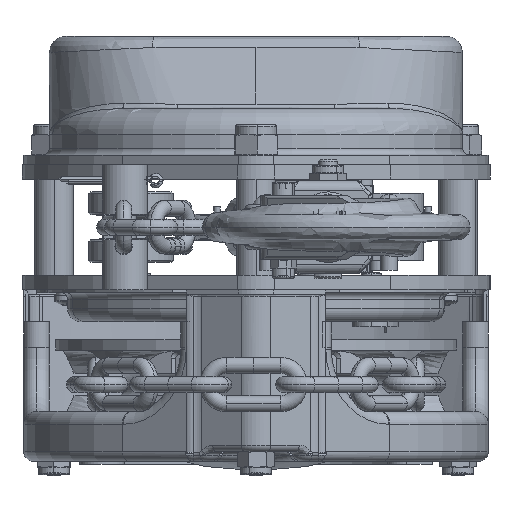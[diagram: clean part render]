
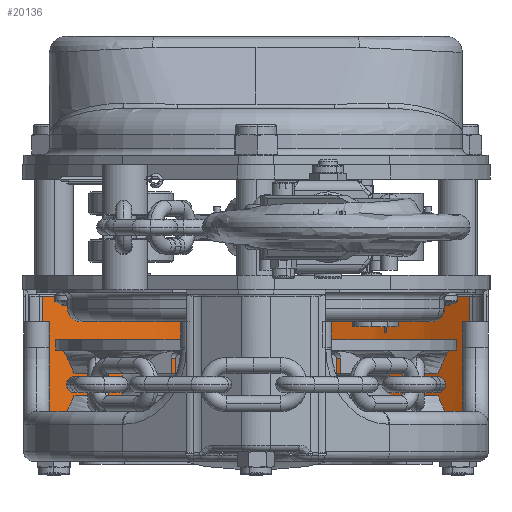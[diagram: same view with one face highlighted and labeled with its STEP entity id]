
A CAD part, front view. The second image highlights one B-rep face of the part: STEP entity #20136.
In plain terms, the highlighted cylindrical face has radius 116.5 mm (diameter 233 mm), a partial arc.
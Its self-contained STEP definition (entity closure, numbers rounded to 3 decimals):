
#227 = VERTEX_POINT ( 'NONE', #128330 ) ;
#793 = CARTESIAN_POINT ( 'NONE',  ( 45.596, 62.034, -81.5 ) ) ;
#1045 = CARTESIAN_POINT ( 'NONE',  ( -34.921, 65.971, -83.5 ) ) ;
#3071 = CARTESIAN_POINT ( 'NONE',  ( -36.113, 65.591, -83.698 ) ) ;
#5030 = CARTESIAN_POINT ( 'NONE',  ( -37.317, 65.19, -83.72 ) ) ;
#5415 = CARTESIAN_POINT ( 'NONE',  ( 44.865, 62.345, -81.5 ) ) ;
#5677 = CARTESIAN_POINT ( 'NONE',  ( -38.205, 64.886, -83.644 ) ) ;
#5681 = CARTESIAN_POINT ( 'NONE',  ( -11.841, 70.876, -36.5 ) ) ;
#6355 = CARTESIAN_POINT ( 'NONE',  ( 29.327, 67.731, -36.5 ) ) ;
#12403 = DIRECTION ( 'NONE',  ( 0., 0., -1. ) ) ;
#13735 = CARTESIAN_POINT ( 'NONE',  ( -34.921, 65.971, -83.5 ) ) ;
#15043 = CARTESIAN_POINT ( 'NONE',  ( -44.17, 62.637, -82.118 ) ) ;
#17555 = ORIENTED_EDGE ( 'NONE', *, *, #19787, .T. ) ;
#19053 = AXIS2_PLACEMENT_3D ( 'NONE', #63013, #124613, #104780 ) ;
#19496 = AXIS2_PLACEMENT_3D ( 'NONE', #73085, #23400, #53861 ) ;
#19787 = EDGE_CURVE ( 'NONE', #70064, #123569, #38525, .T. ) ;
#20136 = ADVANCED_FACE ( 'NONE', ( #81293 ), #101172, .F. ) ;
#21043 = DIRECTION ( 'NONE',  ( -1., 0., 0. ) ) ;
#22102 = ORIENTED_EDGE ( 'NONE', *, *, #100329, .T. ) ;
#23400 = DIRECTION ( 'NONE',  ( 0., 0., -1. ) ) ;
#23629 = CARTESIAN_POINT ( 'NONE',  ( -37.911, 64.987, -83.679 ) ) ;
#23943 = VECTOR ( 'NONE', #111805, 1000. ) ;
#24046 = CARTESIAN_POINT ( 'NONE',  ( 0., -45.172, -81.5 ) ) ;
#24922 = CARTESIAN_POINT ( 'NONE',  ( -23.544, 69.078, -36.5 ) ) ;
#25316 = CARTESIAN_POINT ( 'NONE',  ( 44.142, 62.644, -81.577 ) ) ;
#26217 = CARTESIAN_POINT ( 'NONE',  ( 66.723, 50.328, -81.5 ) ) ;
#26224 = CARTESIAN_POINT ( 'NONE',  ( 23.544, 69.078, -36.5 ) ) ;
#26600 = CARTESIAN_POINT ( 'NONE',  ( 39.841, 64.306, -82.571 ) ) ;
#27088 = CARTESIAN_POINT ( 'NONE',  ( -66.723, 50.328, -81.5 ) ) ;
#27937 = CARTESIAN_POINT ( 'NONE',  ( 40.555, 64.044, -82.356 ) ) ;
#28674 = CARTESIAN_POINT ( 'NONE',  ( -66.723, 50.328, -36.5 ) ) ;
#29859 = B_SPLINE_CURVE_WITH_KNOTS ( 'NONE', 3,
 ( #55772, #96144, #125964, #26600, #27937, #35258, #75664, #25316, #5415, #45806 ),
 .UNSPECIFIED., .F., .F.,
 ( 4, 2, 2, 2, 4 ),
 ( 0., 0.002, 0.005, 0.007, 0.009 ),
 .UNSPECIFIED. ) ;
#30283 = ORIENTED_EDGE ( 'NONE', *, *, #108242, .T. ) ;
#32245 = VERTEX_POINT ( 'NONE', #793 ) ;
#35258 = CARTESIAN_POINT ( 'NONE',  ( 41.986, 63.502, -81.978 ) ) ;
#36856 = CARTESIAN_POINT ( 'NONE',  ( -61.869, 53.719, -36.5 ) ) ;
#38525 = CIRCLE ( 'NONE', #19496, 116.5 ) ;
#41469 = EDGE_CURVE ( 'NONE', #227, #44192, #128561, .T. ) ;
#43210 = DIRECTION ( 'NONE',  ( 0., 0., -1. ) ) ;
#44135 = CARTESIAN_POINT ( 'NONE',  ( -43.048, 63.09, -82.432 ) ) ;
#44192 = VERTEX_POINT ( 'NONE', #26217 ) ;
#44294 = EDGE_CURVE ( 'NONE', #85347, #70064, #128898, .T. ) ;
#45806 = CARTESIAN_POINT ( 'NONE',  ( 45.596, 62.034, -81.5 ) ) ;
#46069 = CARTESIAN_POINT ( 'NONE',  ( -46.134, 61.968, -36.5 ) ) ;
#46748 = CARTESIAN_POINT ( 'NONE',  ( 40.622, 64.177, -36.5 ) ) ;
#47092 = CARTESIAN_POINT ( 'NONE',  ( 66.723, 50.328, -36. ) ) ;
#47825 = VERTEX_POINT ( 'NONE', #27088 ) ;
#50323 = EDGE_CURVE ( 'NONE', #123569, #32245, #29859, .T. ) ;
#53861 = DIRECTION ( 'NONE',  ( -1., 0., 0. ) ) ;
#54746 = CARTESIAN_POINT ( 'NONE',  ( -40.792, 63.955, -83.079 ) ) ;
#54967 = CIRCLE ( 'NONE', #19053, 116.5 ) ;
#55149 = DIRECTION ( 'NONE',  ( -1., 0., 0. ) ) ;
#55375 = CARTESIAN_POINT ( 'NONE',  ( -35.516, 65.784, -83.617 ) ) ;
#55772 = CARTESIAN_POINT ( 'NONE',  ( 36.993, 65.298, -83.5 ) ) ;
#56024 = CARTESIAN_POINT ( 'NONE',  ( 11.841, 70.876, -36.5 ) ) ;
#56454 = CARTESIAN_POINT ( 'NONE',  ( -48.699, 60.661, -81.5 ) ) ;
#56658 = CARTESIAN_POINT ( 'NONE',  ( 5.92, 71.328, -36.5 ) ) ;
#63013 = CARTESIAN_POINT ( 'NONE',  ( 0., -45.172, -81.5 ) ) ;
#63744 = VECTOR ( 'NONE', #100067, 1000. ) ;
#66245 = ORIENTED_EDGE ( 'NONE', *, *, #44294, .T. ) ;
#70064 = VERTEX_POINT ( 'NONE', #1045 ) ;
#71416 = LINE ( 'NONE', #103135, #23943 ) ;
#73085 = CARTESIAN_POINT ( 'NONE',  ( 0., -45.172, -83.5 ) ) ;
#74649 = CARTESIAN_POINT ( 'NONE',  ( -39.08, 64.58, -83.508 ) ) ;
#75288 = CARTESIAN_POINT ( 'NONE',  ( 61.869, 53.719, -36.5 ) ) ;
#75664 = CARTESIAN_POINT ( 'NONE',  ( 42.702, 63.222, -81.815 ) ) ;
#80627 = CARTESIAN_POINT ( 'NONE',  ( 0., -45.172, -36. ) ) ;
#81293 = FACE_OUTER_BOUND ( 'NONE', #115355, .T. ) ;
#82748 = ORIENTED_EDGE ( 'NONE', *, *, #104490, .T. ) ;
#85347 = VERTEX_POINT ( 'NONE', #56454 ) ;
#94476 = CARTESIAN_POINT ( 'NONE',  ( -47.554, 61.188, -81.5 ) ) ;
#96144 = CARTESIAN_POINT ( 'NONE',  ( 37.707, 65.06, -83.262 ) ) ;
#96403 = CARTESIAN_POINT ( 'NONE',  ( -46.424, 61.686, -81.654 ) ) ;
#96408 = CARTESIAN_POINT ( 'NONE',  ( -5.92, 71.328, -36.5 ) ) ;
#99582 = CARTESIAN_POINT ( 'NONE',  ( -66.723, 50.328, -36.5 ) ) ;
#100067 = DIRECTION ( 'NONE',  ( 0., 0., -1. ) ) ;
#100077 = EDGE_CURVE ( 'NONE', #227, #108794, #119195, .T. ) ;
#100329 = EDGE_CURVE ( 'NONE', #32245, #44192, #54967, .T. ) ;
#101172 = CYLINDRICAL_SURFACE ( 'NONE', #123169, 116.5 ) ;
#101392 = CIRCLE ( 'NONE', #124625, 116.5 ) ;
#103135 = CARTESIAN_POINT ( 'NONE',  ( -66.723, 50.328, -36. ) ) ;
#104437 = CARTESIAN_POINT ( 'NONE',  ( -37.015, 65.292, -83.726 ) ) ;
#104490 = EDGE_CURVE ( 'NONE', #47825, #85347, #101392, .T. ) ;
#104780 = DIRECTION ( 'NONE',  ( -1., 0., 0. ) ) ;
#105089 = CARTESIAN_POINT ( 'NONE',  ( -41.357, 63.742, -82.916 ) ) ;
#108242 = EDGE_CURVE ( 'NONE', #108794, #47825, #71416, .T. ) ;
#108794 = VERTEX_POINT ( 'NONE', #99582 ) ;
#111805 = DIRECTION ( 'NONE',  ( 0., 0., -1. ) ) ;
#115355 = EDGE_LOOP ( 'NONE', ( #123251, #127428, #30283, #82748, #66245, #17555, #118812, #22102 ) ) ;
#115642 = CARTESIAN_POINT ( 'NONE',  ( -48.699, 60.661, -81.5 ) ) ;
#115646 = CARTESIAN_POINT ( 'NONE',  ( 46.134, 61.968, -36.5 ) ) ;
#116994 = CARTESIAN_POINT ( 'NONE',  ( 66.723, 50.328, -36.5 ) ) ;
#117622 = CARTESIAN_POINT ( 'NONE',  ( -29.327, 67.731, -36.5 ) ) ;
#117766 = CARTESIAN_POINT ( 'NONE',  ( 36.993, 65.298, -83.5 ) ) ;
#118812 = ORIENTED_EDGE ( 'NONE', *, *, #50323, .T. ) ;
#119195 = B_SPLINE_CURVE_WITH_KNOTS ( 'NONE', 3,
 ( #116994, #75288, #126226, #115646, #46748, #6355, #26224, #56024, #56658, #96408, #5681, #24922, #117622, #127556, #46069, #126899, #36856, #28674 ),
 .UNSPECIFIED., .F., .F.,
 ( 4, 2, 2, 2, 2, 2, 2, 2, 4 ),
 ( 0., 0.125, 0.25, 0.375, 0.5, 0.625, 0.75, 0.875, 1. ),
 .UNSPECIFIED. ) ;
#123169 = AXIS2_PLACEMENT_3D ( 'NONE', #80627, #12403, #21043 ) ;
#123251 = ORIENTED_EDGE ( 'NONE', *, *, #41469, .F. ) ;
#123569 = VERTEX_POINT ( 'NONE', #117766 ) ;
#124613 = DIRECTION ( 'NONE',  ( 0., 0., -1. ) ) ;
#124625 = AXIS2_PLACEMENT_3D ( 'NONE', #24046, #43210, #55149 ) ;
#124933 = CARTESIAN_POINT ( 'NONE',  ( -39.653, 64.374, -83.375 ) ) ;
#125964 = CARTESIAN_POINT ( 'NONE',  ( 38.418, 64.814, -83.024 ) ) ;
#126226 = CARTESIAN_POINT ( 'NONE',  ( 56.757, 56.739, -36.5 ) ) ;
#126899 = CARTESIAN_POINT ( 'NONE',  ( -56.757, 56.739, -36.5 ) ) ;
#127428 = ORIENTED_EDGE ( 'NONE', *, *, #100077, .T. ) ;
#127556 = CARTESIAN_POINT ( 'NONE',  ( -40.622, 64.177, -36.5 ) ) ;
#128330 = CARTESIAN_POINT ( 'NONE',  ( 66.723, 50.328, -36.5 ) ) ;
#128561 = LINE ( 'NONE', #47092, #63744 ) ;
#128898 = B_SPLINE_CURVE_WITH_KNOTS ( 'NONE', 3,
 ( #115642, #94476, #96403, #15043, #44135, #105089, #54746, #124933, #74649, #5677, #23629, #5030, #104437, #3071, #55375, #13735 ),
 .UNSPECIFIED., .F., .F.,
 ( 4, 2, 2, 2, 2, 2, 2, 4 ),
 ( 0., 0.004, 0.007, 0.009, 0.011, 0.012, 0.013, 0.015 ),
 .UNSPECIFIED. ) ;
